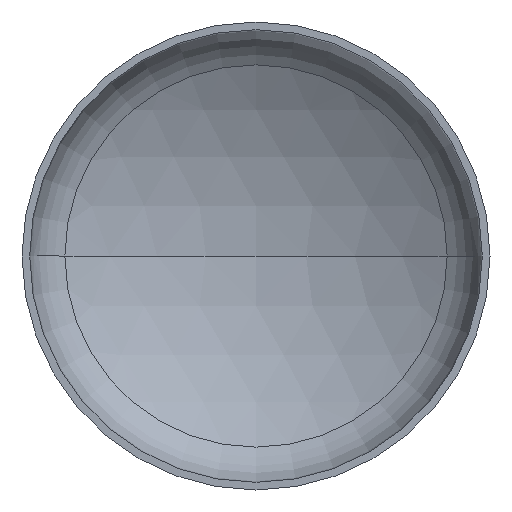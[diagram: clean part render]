
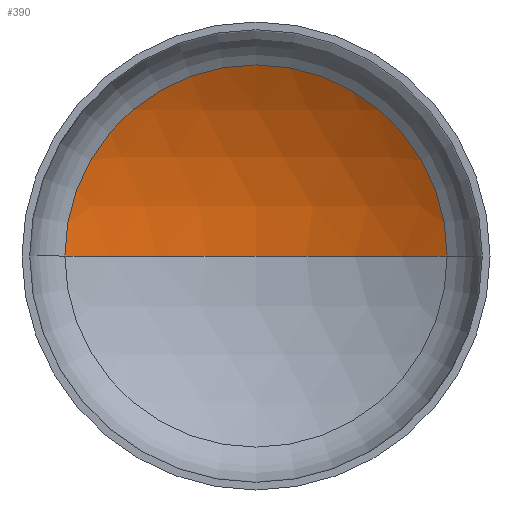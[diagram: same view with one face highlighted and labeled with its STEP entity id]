
A CAD part, front view. The second image highlights one B-rep face of the part: STEP entity #390.
In plain terms, the highlighted spherical face has radius 1120 mm.
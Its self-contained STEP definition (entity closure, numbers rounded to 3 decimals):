
#8 = DIRECTION ( 'NONE',  ( 0., 0., -1. ) ) ;
#14 = AXIS2_PLACEMENT_3D ( 'NONE', #405, #319, #252 ) ;
#18 = ORIENTED_EDGE ( 'NONE', *, *, #353, .T. ) ;
#21 = AXIS2_PLACEMENT_3D ( 'NONE', #324, #273, #71 ) ;
#24 = AXIS2_PLACEMENT_3D ( 'NONE', #170, #346, #200 ) ;
#27 = EDGE_LOOP ( 'NONE', ( #39, #18, #144 ) ) ;
#39 = ORIENTED_EDGE ( 'NONE', *, *, #355, .F. ) ;
#50 = SPHERICAL_SURFACE ( 'NONE', #195, 1120. ) ;
#59 = VERTEX_POINT ( 'NONE', #293 ) ;
#71 = DIRECTION ( 'NONE',  ( 1., 0., 0. ) ) ;
#101 = VERTEX_POINT ( 'NONE', #298 ) ;
#110 = CIRCLE ( 'NONE', #14, 1120. ) ;
#121 = VERTEX_POINT ( 'NONE', #297 ) ;
#144 = ORIENTED_EDGE ( 'NONE', *, *, #351, .T. ) ;
#170 = CARTESIAN_POINT ( 'NONE',  ( 0., -708.191, 0. ) ) ;
#184 = DIRECTION ( 'NONE',  ( -1., 0., 0. ) ) ;
#186 = FACE_OUTER_BOUND ( 'NONE', #27, .T. ) ;
#195 = AXIS2_PLACEMENT_3D ( 'NONE', #210, #8, #184 ) ;
#200 = DIRECTION ( 'NONE',  ( -1., 0., 0. ) ) ;
#210 = CARTESIAN_POINT ( 'NONE',  ( 0., -708.191, 0. ) ) ;
#252 = DIRECTION ( 'NONE',  ( 1., 0., 0. ) ) ;
#268 = CIRCLE ( 'NONE', #24, 1120. ) ;
#273 = DIRECTION ( 'NONE',  ( 0., -1., 0. ) ) ;
#293 = CARTESIAN_POINT ( 'NONE',  ( 571.757, 254.874, 0. ) ) ;
#297 = CARTESIAN_POINT ( 'NONE',  ( 0., 411.809, 0. ) ) ;
#298 = CARTESIAN_POINT ( 'NONE',  ( -571.757, 254.874, 0. ) ) ;
#319 = DIRECTION ( 'NONE',  ( 0., 0., 1. ) ) ;
#324 = CARTESIAN_POINT ( 'NONE',  ( 0., 254.874, 0. ) ) ;
#346 = DIRECTION ( 'NONE',  ( 0., 0., -1. ) ) ;
#351 = EDGE_CURVE ( 'NONE', #59, #101, #382, .T. ) ;
#353 = EDGE_CURVE ( 'NONE', #121, #59, #268, .T. ) ;
#355 = EDGE_CURVE ( 'NONE', #121, #101, #110, .T. ) ;
#382 = CIRCLE ( 'NONE', #21, 571.757 ) ;
#390 = ADVANCED_FACE ( 'NONE', ( #186 ), #50, .F. ) ;
#405 = CARTESIAN_POINT ( 'NONE',  ( 0., -708.191, 0. ) ) ;
